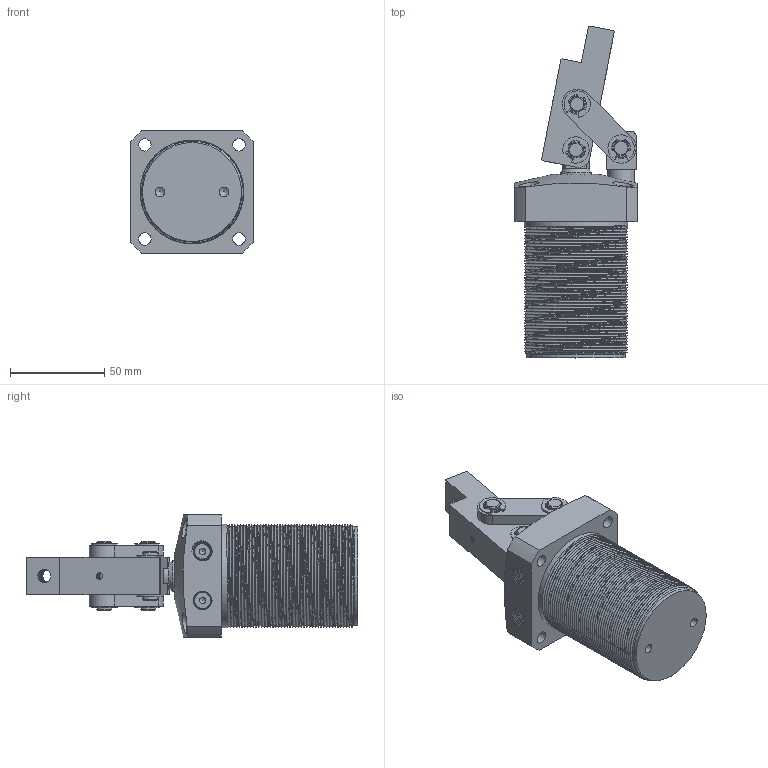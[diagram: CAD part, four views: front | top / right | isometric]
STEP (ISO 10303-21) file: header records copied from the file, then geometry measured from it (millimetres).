
FILE_DESCRIPTION(/* description */ (''),/* implementation_level */ '2;1');
FILE_NAME(/* name */ 'E:\SERWER_ZAPAS\MODELE brakujace\PNEUMATIC\CPLCU(STEP)\cplcu-40_asm\CPLCU-40_OTWARTY.stp',/* time_stamp */ '2019-02-08T14:17:24+01:00',/* author */ ('Admin'),/* organization */ (''),/* preprocessor_version */ 'ST-DEVELOPER v17.2',/* originating_system */ 'Autodesk Inventor 2019',/* authorisation */ '');
FILE_SCHEMA (('AUTOMOTIVE_DESIGN { 1 0 10303 214 3 1 1 }'));
Products named in the file (10): CPLCU-40_OTWARTY; CPLCU-40-07; CPLCU-40-05; CPLCU-40-06; CPLCU-40-01; CPLCU-40-02; CPLCU-40-08; CPLCU-40-03; CPLCU-40-04; LHC01D-40-08
Assembly tree (21 placements, depth 2):
  CPLCU-40_OTWARTY
    CPLCU-40-07
    CPLCU-40-05
    CPLCU-40-06
    CPLCU-40-01
    CPLCU-40-02  x2
    CPLCU-40-08  x6
    CPLCU-40-03
    CPLCU-40-04  x2
    LHC01D-40-08  x6
Bounding box: 65 x 176.34 x 65 mm (x, y, z)
Volume: 259924 mm3; surface area: 83037.5 mm2
Topology: 21 solids, 21 shells, 545 faces, 1449 edges, 974 vertices
Faces by surface type: cylinder 251, plane 147, cone 77, bspline 63, torus 6, sphere 1
Full cylindrical faces by diameter (mm): 3.3 x2, 3.4 x14, 5 x2, 6.5 x4, 7 x19, 8 x19, 8.5 x9, 10 x18, 11 x4, 14 x2, 16 x2, 29 x1, 36 x1, 40 x4, 52.6 x1, 55 x44
Entity records: 44951 total; most frequent: CARTESIAN_POINT 35709, ORIENTED_EDGE 1996, DIRECTION 1591, EDGE_CURVE 998, VERTEX_POINT 676, AXIS2_PLACEMENT_3D 616, EDGE_LOOP 428, FACE_OUTER_BOUND 370
